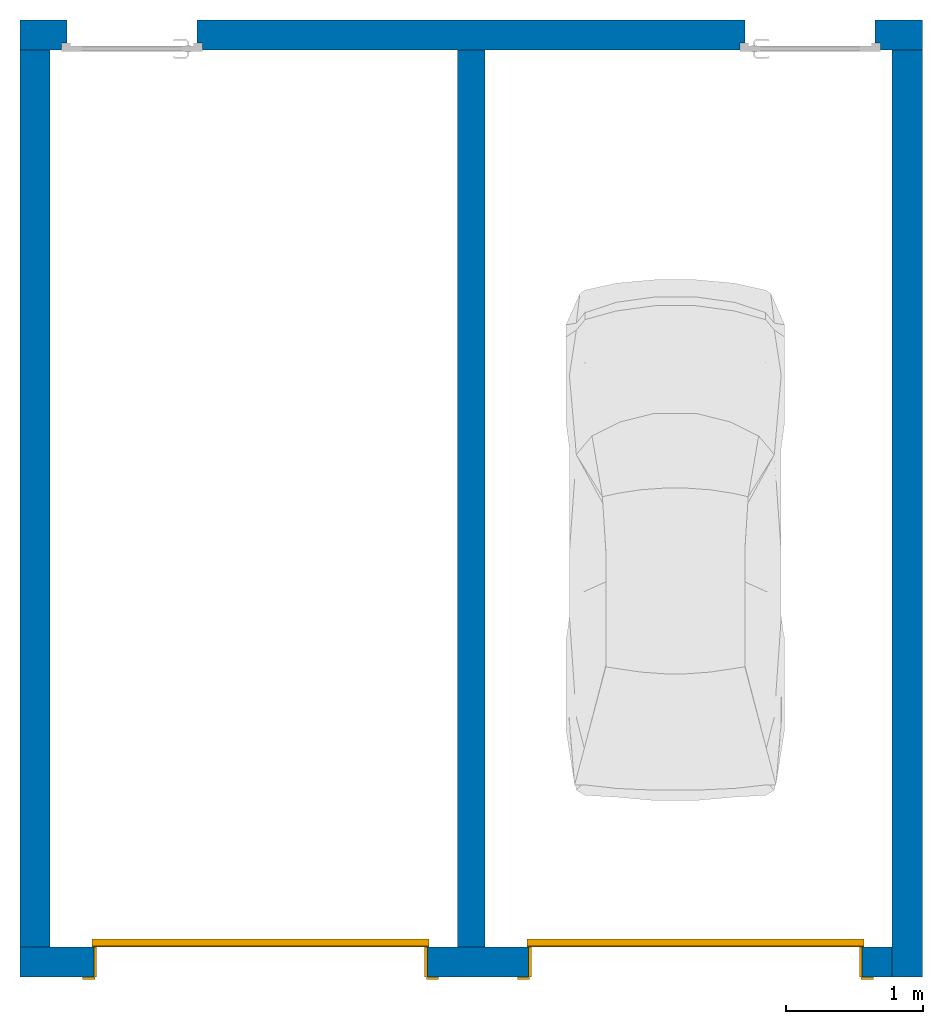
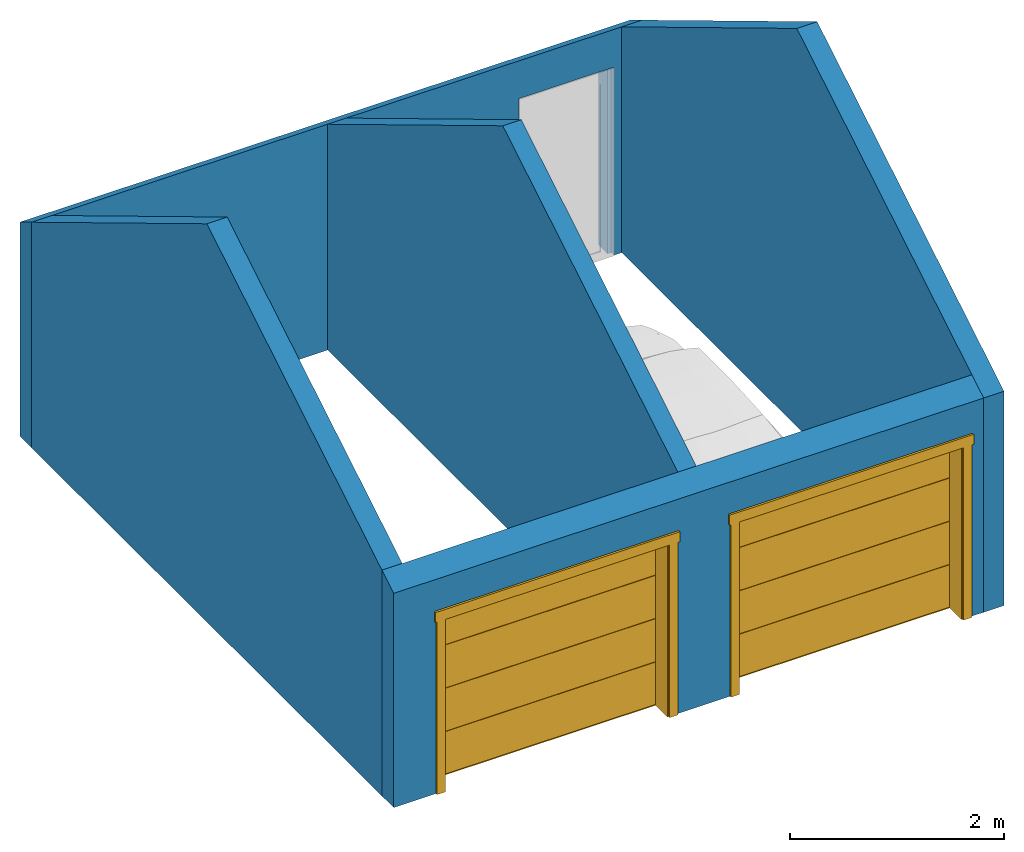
# One storey, part 1 of 3: 5 walls, 2 doors, 4 openings.
"""IFC2X3 building model written with IfcOpenShell, lengths in metres."""

from ifc_helpers import new_model, entity, si_unit, converted_unit, derived_unit, direction, frame, frame_2d, origin, origin_2d_with_axis, place, context, subcontext, project, spatial, polyline, rectangle, outline, extrude, clip, bounded_halfspace, faceted_brep, source, transform, mapped, material, layer, layer_set, layer_usage, type_object, type_shapes, element, fill, save


model = new_model("IFC2X3")

# Units and contexts
model_context = context("Model", 3, precision=1e-05, world=origin(), true_north=direction((6.12303176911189e-17, 1.0)))
body_context = subcontext(model_context, "Body", "Model", "MODEL_VIEW")
ifc_project = project(units=[si_unit("LENGTHUNIT", "METRE"), si_unit("AREAUNIT", "SQUARE_METRE"), si_unit("VOLUMEUNIT", "CUBIC_METRE"), converted_unit("PLANEANGLEUNIT", "DEGREE", entity("IfcRatioMeasure", 0.0174532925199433), si_unit("PLANEANGLEUNIT", "RADIAN"), dimensions=[0, 0, 0, 0, 0, 0, 0]), si_unit("MASSUNIT", "GRAM", prefix="KILO"), si_unit("TIMEUNIT", "SECOND"), si_unit("FREQUENCYUNIT", "HERTZ"), si_unit("THERMODYNAMICTEMPERATUREUNIT", "DEGREE_CELSIUS"), derived_unit("THERMALTRANSMITTANCEUNIT", [(si_unit("MASSUNIT", "GRAM", prefix="KILO"), 1), (si_unit("THERMODYNAMICTEMPERATUREUNIT", "KELVIN"), -1), (si_unit("TIMEUNIT", "SECOND"), -3)]), derived_unit("VOLUMETRICFLOWRATEUNIT", [(si_unit("LENGTHUNIT", "METRE"), 3), (si_unit("TIMEUNIT", "SECOND"), -1)]), si_unit("ELECTRICCURRENTUNIT", "AMPERE"), si_unit("ELECTRICVOLTAGEUNIT", "VOLT"), si_unit("POWERUNIT", "WATT"), si_unit("FORCEUNIT", "NEWTON", prefix="KILO"), si_unit("ILLUMINANCEUNIT", "LUX"), si_unit("LUMINOUSFLUXUNIT", "LUMEN"), si_unit("LUMINOUSINTENSITYUNIT", "CANDELA"), derived_unit("USERDEFINED", [(si_unit("MASSUNIT", "GRAM", prefix="KILO"), -1), (si_unit("LENGTHUNIT", "METRE"), -2), (si_unit("TIMEUNIT", "SECOND"), 3), (si_unit("LUMINOUSFLUXUNIT", "LUMEN"), 1)]), derived_unit("LINEARVELOCITYUNIT", [(si_unit("LENGTHUNIT", "METRE"), 1), (si_unit("TIMEUNIT", "SECOND"), -1)]), si_unit("PRESSUREUNIT", "PASCAL"), derived_unit("USERDEFINED", [(si_unit("LENGTHUNIT", "METRE"), -2), (si_unit("MASSUNIT", "GRAM", prefix="KILO"), 1), (si_unit("TIMEUNIT", "SECOND"), -2)])], contexts=[model_context])

# Site, building, storey
site_placement = place(None, origin())
site = spatial("IfcSite", under=ifc_project, at=site_placement, Name="Surface", CompositionType="ELEMENT")
building_placement = place(site_placement, origin())
building = spatial("IfcBuilding", under=site, at=building_placement, CompositionType="ELEMENT")
storey_placement = place(building_placement, origin())
storey = spatial("IfcBuildingStorey", under=building, at=storey_placement, Name="Plan du rez de chaussée", CompositionType="ELEMENT", Elevation=0.0)

# Wall, openings
ifc_material_1 = material(Name="Maçonnerie - Enduit")
ifc_layer_1 = layer(ifc_material_1, 0.02)
ifc_material_2 = material(Name="Maçonnerie - Béton")
ifc_layer_2 = layer(ifc_material_2, 0.2)
ifc_layer_set_1 = layer_set([ifc_layer_1, ifc_layer_2], Name="Mur de base:Ext.BBM + enduit 22")
ifc_layer_usage_1 = layer_usage(ifc_layer_set_1, "AXIS2", "NEGATIVE", 0.11)
wall_type_1 = type_object("IfcWallType", Name="Mur de base:Ext.BBM + enduit 22", PredefinedType="STANDARD", material=ifc_layer_set_1)
wall_1_placement = place(storey_placement, frame((-9.92801835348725, 2.5851324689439, 0.0)))
wall_1 = element("IfcWallStandardCase", 1, at=wall_1_placement, inside=storey, type_object=wall_type_1, material=ifc_layer_usage_1, Name="Mur de base:Ext.BBM + enduit 22", ObjectType="Mur de base:Ext.BBM + enduit 22", context=body_context, shape_type="Clipping", body=[
    clip(extrude(rectangle(XDim=6.60000000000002, YDim=0.22, at=frame_2d((3.30000000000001, 0.0), x_axis=(-1.0, 0.0))), origin(), (0.0, 0.0, 1.0), 2.58218933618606), bounded_halfspace(frame((0.0, -0.11, 2.58218933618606), z_axis=(0.0, 0.515038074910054, 0.857167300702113), x_axis=(-1.0, 0.0, 0.0)), False, frame((0.0, -0.11, 2.58218933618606)), polyline([(0.0, 0.0), (0.219999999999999, 0.0), (3.2, 0.0), (3.4, 0.0), (6.38000000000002, 0.0), (6.60000000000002, 0.0), (6.60000000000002, 0.22), (0.0, 0.22), (0.0, 0.0)]))),
])
opening_1_placement = place(wall_1_placement, frame((0.305000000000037, -0.410000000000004, 0.0)))
element("IfcOpeningElement", 2, at=opening_1_placement, cuts=wall_1, Name="Mur de base:Ext.BBM + enduit 22", ObjectType="Opening", context=body_context, shape_type="Brep", body=[
    faceted_brep([(0.98999999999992, 0.820000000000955, 2.11000000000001), (0.0400000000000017, 0.820000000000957, 2.11000000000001), (0.0400000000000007, 0.350000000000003, 2.11000000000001), (0.989999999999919, 0.35, 2.11000000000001), (0.0400000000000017, 0.820000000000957, 0.0), (0.98999999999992, 0.820000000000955, 0.0), (0.989999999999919, 0.35, 0.0), (1.02999999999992, 0.35, 0.0), (1.02999999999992, 0.3, 0.0), (0.989999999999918, 0.3, 0.0), (0.989999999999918, 0.0, 0.0), (0.0399999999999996, 0.0, 0.0), (0.0399999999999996, 0.300000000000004, 0.0), (0.0, 0.300000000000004, 0.0), (0.0, 0.350000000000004, 0.0), (0.0400000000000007, 0.350000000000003, 0.0), (0.989999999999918, 0.0, 2.11000000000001), (0.0399999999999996, 0.0, 2.11000000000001), (1.02999999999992, 0.3, 2.15000000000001), (0.0, 0.300000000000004, 2.15000000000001), (0.0400000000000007, 0.300000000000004, 2.11000000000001), (0.989999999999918, 0.3, 2.11000000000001), (1.02999999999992, 0.35, 2.15000000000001), (0.0, 0.350000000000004, 2.15000000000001)], [[[0, 1, 2, 3]], [[4, 5, 6, 7, 8, 9, 10, 11, 12, 13, 14, 15]], [[1, 0, 5, 4]], [[5, 0, 3, 6]], [[16, 17, 11, 10]], [[1, 4, 15, 2]], [[9, 8, 18, 19, 13, 12, 20, 21]], [[8, 7, 22, 18]], [[7, 6, 3, 2, 15, 14, 23, 22]], [[19, 18, 22, 23]], [[13, 19, 23, 14]], [[11, 17, 20, 12]], [[16, 10, 9, 21]], [[17, 16, 21, 20]]]),
])
opening_2_placement = place(wall_1_placement, frame((5.26500000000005, -0.41000000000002, 0.0)))
element("IfcOpeningElement", 3, at=opening_2_placement, cuts=wall_1, Name="Mur de base:Ext.BBM + enduit 22", ObjectType="Opening", context=body_context, shape_type="Brep", body=[
    faceted_brep([(0.989999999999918, 0.0, 2.11000000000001), (0.989999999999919, 0.3, 2.11000000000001), (0.0400000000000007, 0.300000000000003, 2.11000000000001), (0.0399999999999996, 0.0, 2.11000000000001), (0.989999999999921, 0.820000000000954, 0.0), (0.989999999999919, 0.35, 0.0), (1.02999999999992, 0.35, 0.0), (1.02999999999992, 0.3, 0.0), (0.989999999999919, 0.3, 0.0), (0.989999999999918, 0.0, 0.0), (0.0399999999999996, 0.0, 0.0), (0.0400000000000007, 0.300000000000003, 0.0), (0.0, 0.300000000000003, 0.0), (0.0, 0.350000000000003, 0.0), (0.0400000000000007, 0.350000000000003, 0.0), (0.0400000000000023, 0.820000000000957, 0.0), (0.989999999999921, 0.820000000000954, 2.11000000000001), (0.0400000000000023, 0.820000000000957, 2.11000000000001), (0.989999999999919, 0.35, 2.11000000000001), (1.02999999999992, 0.3, 2.15000000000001), (0.0, 0.300000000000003, 2.15000000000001), (0.0, 0.350000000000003, 2.15000000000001), (1.02999999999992, 0.35, 2.15000000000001), (0.0400000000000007, 0.350000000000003, 2.11000000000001)], [[[0, 1, 2, 3]], [[4, 5, 6, 7, 8, 9, 10, 11, 12, 13, 14, 15]], [[16, 4, 15, 17]], [[3, 2, 11, 10]], [[3, 10, 9, 0]], [[16, 18, 5, 4]], [[11, 2, 1, 8, 7, 19, 20, 12]], [[12, 20, 21, 13]], [[13, 21, 22, 6, 5, 18, 23, 14]], [[19, 22, 21, 20]], [[7, 6, 22, 19]], [[9, 8, 1, 0]], [[15, 14, 23, 17]], [[17, 23, 18, 16]]]),
])

# Wall
ifc_layer_usage_2 = layer_usage(ifc_layer_set_1, "AXIS2", "NEGATIVE", 0.11)
wall_2_placement = place(storey_placement, frame((-3.43801835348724, 2.47513246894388, 0.0), z_axis=(0.0, 0.0, 1.0), x_axis=(0.0, -1.0, 0.0)))
element("IfcWallStandardCase", 4, at=wall_2_placement, inside=storey, type_object=wall_type_1, material=ifc_layer_usage_2, Name="Mur de base:Ext.BBM + enduit 22", ObjectType="Mur de base:Ext.BBM + enduit 22", context=body_context, shape_type="Clipping", body=[
    clip(clip(extrude(rectangle(XDim=6.78, YDim=0.22, at=frame_2d((3.39, 1.38777878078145e-17), x_axis=(-1.0, 0.0))), origin(), (0.0, 0.0, 1.0), 4.55301216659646), bounded_halfspace(frame((0.0, -0.11, 2.58218933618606), z_axis=(-0.515038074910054, 0.0, 0.857167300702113), x_axis=(0.0, -1.0, 0.0)), False, frame((0.0, -0.11, 2.58218933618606)), polyline([(0.0, 0.0), (3.28, 0.0), (3.28, 0.219999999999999), (0.0, 0.22), (0.0, 0.0)]))), bounded_halfspace(frame((3.28, -0.11, 4.55301216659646), z_axis=(0.515038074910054, 0.0, 0.857167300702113), x_axis=(0.0, 1.0, 0.0)), False, frame((3.28, -0.11, 4.55301216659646)), polyline([(0.0, 0.0), (3.28, 0.0), (3.5, 0.0), (3.5, 0.22), (0.0, 0.22), (0.0, 0.0)]))),
])

# Wall, openings, doors
ifc_layer_usage_3 = layer_usage(ifc_layer_set_1, "AXIS2", "NEGATIVE", 0.11)
wall_3_placement = place(storey_placement, frame((-3.54801835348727, -4.19486753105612, 0.0), z_axis=(0.0, 0.0, 1.0), x_axis=(-1.0, 0.0, 0.0)))
wall_3 = element("IfcWallStandardCase", 5, at=wall_3_placement, inside=storey, type_object=wall_type_1, material=ifc_layer_usage_3, Name="Mur de base:Ext.BBM + enduit 22", ObjectType="Mur de base:Ext.BBM + enduit 22", context=body_context, shape_type="Clipping", body=[
    clip(extrude(rectangle(XDim=6.38, YDim=0.22, at=frame_2d((3.19, 0.0), x_axis=(-1.0, 0.0))), origin(), (0.0, 0.0, 1.0), 2.58218933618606), bounded_halfspace(frame((0.0, -0.11, 2.58218933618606), z_axis=(0.0, 0.515038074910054, 0.857167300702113), x_axis=(-1.0, 0.0, 0.0)), False, frame((0.0, -0.11, 2.58218933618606)), polyline([(0.0, 0.0), (2.98, 0.0), (3.18, 0.0), (6.16, 0.0), (6.38, 0.0), (6.38, 0.22), (0.0, 0.22), (0.0, 0.0)]))),
])
opening_3_placement = place(wall_3_placement, frame((5.8392, 0.109999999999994, 0.0)))
opening_3 = element("IfcOpeningElement", 6, at=opening_3_placement, cuts=wall_3, Name="Overhead-Sectional-Flush:96\" x 78\":1", ObjectType="Opening", context=body_context, shape_type="SweptSolid", body=[
    extrude(rectangle(XDim=1.9812, YDim=2.4384, at=frame_2d((0.990599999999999, 1.2192), x_axis=(1.0, 0.0))), frame((0.0, 0.0, 0.0), z_axis=(0.0, -1.0, 0.0), x_axis=(0.0, 0.0, 1.0)), (0.0, 0.0, 1.0), 0.22),
])
opening_4_placement = place(wall_3_placement, frame((2.6592, 0.109999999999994, 0.0)))
opening_4 = element("IfcOpeningElement", 7, at=opening_4_placement, cuts=wall_3, Name="Overhead-Sectional-Flush:96\" x 78\":1", ObjectType="Opening", context=body_context, shape_type="SweptSolid", body=[
    extrude(rectangle(XDim=1.9812, YDim=2.4384, at=frame_2d((0.990599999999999, 1.2192), x_axis=(1.0, 0.0))), frame((0.0, 0.0, 0.0), z_axis=(0.0, -1.0, 0.0), x_axis=(0.0, 0.0, 1.0)), (0.0, 0.0, 1.0), 0.22),
])
ifc_material_3 = material(Name="Rubber - Black")
door_style = type_object("IfcDoorStyle", Name="96\" x 78\"", ConstructionType="NOTDEFINED", OperationType="NOTDEFINED", ParameterTakesPrecedence=False, Sizeable=False, material=ifc_material_3)
shared_shape = source(origin(), body_context, "Body", "SweptSolid", [
    extrude(outline(polyline([(-0.0371230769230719, -0.984127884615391), (0.0136769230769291, -0.984127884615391), (0.0136769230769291, -0.499940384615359), (-0.011723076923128, -0.495177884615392), (0.0136769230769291, -0.495177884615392), (0.0136769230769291, -0.00464038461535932), (-0.0117230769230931, 0.000122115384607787), (0.0136769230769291, 0.000122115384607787), (0.0136769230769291, 0.49065961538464), (-0.0117230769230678, 0.495422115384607), (0.0136769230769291, 0.495422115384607), (0.0136769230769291, 0.990722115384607), (-0.0371230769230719, 0.990722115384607), (-0.0371230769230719, -0.984127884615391)])), frame((-0.0126999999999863, -0.0200269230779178, 0.990477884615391), z_axis=(1.0, 0.0, 0.0), x_axis=(0.0, 1.0, 0.0)), (0.0, 0.0, 1.0), 2.46379999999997),
    extrude(rectangle(XDim=0.01905, YDim=0.0889000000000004, at=origin_2d_with_axis()), frame((-0.0381, 0.229525, 0.0), z_axis=(0.0, 0.0, 1.0), x_axis=(0.0, -1.0, 0.0)), (0.0, 0.0, 1.0), 1.97485),
    extrude(rectangle(XDim=0.01905, YDim=0.0889000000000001, at=frame_2d((0.0, 1.35308431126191e-16), x_axis=(1.0, 0.0))), frame((2.4765, 0.229525, 0.0), z_axis=(0.0, 0.0, 1.0), x_axis=(0.0, -1.0, 0.0)), (0.0, 0.0, 1.0), 1.97485),
    extrude(outline(polyline([(-0.985837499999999, -1.20015), (-0.985837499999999, -1.2192), (0.995362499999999, -1.2192), (0.995362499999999, 1.2192), (-0.985837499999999, 1.2192), (-0.985837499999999, 1.20015), (0.976312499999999, 1.20015), (0.976312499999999, -1.20015), (-0.985837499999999, -1.20015)])), frame((1.2192, 0.0, 0.985837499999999), z_axis=(0.0, -1.0, 0.0), x_axis=(0.0, 0.0, 1.0)), (0.0, 0.0, -1.0), 0.22),
    extrude(outline(polyline([(-0.00317500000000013, -0.0269875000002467), (0.00317500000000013, -0.0269875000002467), (0.00317500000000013, 0.0301625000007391), (-0.00317500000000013, 0.0238124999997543), (-0.00317500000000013, -0.0269875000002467)])), frame((-0.0126999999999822, -0.030162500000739, 0.00317500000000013), z_axis=(1.0, 0.0, 0.0), x_axis=(0.0, 0.0, -1.0)), (0.0, 0.0, 1.0), 2.46379999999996),
    extrude(rectangle(XDim=0.0222249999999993, YDim=2.64159999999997, at=origin_2d_with_axis()), frame((1.2192, 0.2311125, 1.97485), z_axis=(0.0, 0.0, 1.0), x_axis=(0.0, -1.0, 0.0)), (0.0, 0.0, 1.0), 0.1143),
])
type_shapes(door_style, [shared_shape])
door_1_placement = place(opening_3_placement, frame((-2.4384, -0.220000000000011, 0.0)))
door_1 = element("IfcDoor", 8, at=door_1_placement, inside=storey, type_object=door_style, material=ifc_material_3, Name="Overhead-Sectional-Flush:96\" x 78\"", ObjectType="96\" x 78\"", OverallHeight=1.9812, OverallWidth=2.4384, context=body_context, shape_type="MappedRepresentation", body=[
    mapped(shared_shape, transform((0.0, 0.0, 0.0), scale=1.0)),
])
fill(opening_3, door_1)
door_2_placement = place(opening_4_placement, frame((-2.4384, -0.219999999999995, 0.0)))
door_2 = element("IfcDoor", 9, at=door_2_placement, inside=storey, type_object=door_style, material=ifc_material_3, Name="Overhead-Sectional-Flush:96\" x 78\"", ObjectType="96\" x 78\"", OverallHeight=1.9812, OverallWidth=2.4384, context=body_context, shape_type="MappedRepresentation", body=[
    mapped(shared_shape, transform((0.0, 0.0, 0.0), scale=1.0)),
])
fill(opening_4, door_2)

# Walls
ifc_layer_usage_4 = layer_usage(ifc_layer_set_1, "AXIS2", "NEGATIVE", 0.11)
wall_4_placement = place(storey_placement, frame((-9.81801835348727, -4.08486753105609, 0.0), z_axis=(0.0, 0.0, 1.0), x_axis=(0.0, 1.0, 0.0)))
element("IfcWallStandardCase", 10, at=wall_4_placement, inside=storey, type_object=wall_type_1, material=ifc_layer_usage_4, Name="Mur de base:Ext.BBM + enduit 22", ObjectType="Mur de base:Ext.BBM + enduit 22", context=body_context, shape_type="Clipping", body=[
    clip(clip(extrude(rectangle(XDim=6.55999999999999, YDim=0.22, at=frame_2d((3.27999999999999, -5.41233724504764e-16), x_axis=(-1.0, 0.0))), origin(), (0.0, 0.0, 1.0), 4.55301216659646), bounded_halfspace(frame((3.27999999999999, -0.109999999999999, 4.55301216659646), z_axis=(0.515038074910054, 0.0, 0.857167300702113), x_axis=(0.0, 1.0, 0.0)), False, frame((3.27999999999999, -0.109999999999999, 4.55301216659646)), polyline([(0.0, 0.0), (3.27999999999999, 0.0), (3.27999999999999, 0.219999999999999), (0.0, 0.22), (0.0, 0.0)]))), bounded_halfspace(frame((0.0, -0.109999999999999, 2.58218933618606), z_axis=(-0.515038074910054, 0.0, 0.857167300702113), x_axis=(0.0, -1.0, 0.0)), False, frame((0.0, -0.109999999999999, 2.58218933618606)), polyline([(0.0, 0.0), (3.27999999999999, 0.0), (3.27999999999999, 0.22), (0.0, 0.220000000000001), (0.0, 0.0)]))),
])
ifc_material_4 = material(Name="Mur par défaut")
ifc_layer_3 = layer(ifc_material_4, 0.2)
ifc_layer_set_2 = layer_set([ifc_layer_3], Name="Mur de base:Ext.BBM 20 cm")
ifc_layer_usage_5 = layer_usage(ifc_layer_set_2, "AXIS2", "NEGATIVE", 0.1)
wall_type_2 = type_object("IfcWallType", Name="Mur de base:Ext.BBM 20 cm", PredefinedType="STANDARD", material=ifc_layer_set_2)
wall_5_placement = place(storey_placement, frame((-6.62801835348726, -4.0848675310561, 0.0), z_axis=(0.0, 0.0, 1.0), x_axis=(0.0, 1.0, 0.0)))
element("IfcWallStandardCase", 11, at=wall_5_placement, inside=storey, type_object=wall_type_2, material=ifc_layer_usage_5, Name="Mur de base:Ext.BBM 20 cm", ObjectType="Mur de base:Ext.BBM 20 cm", context=body_context, shape_type="Clipping", body=[
    clip(clip(extrude(rectangle(XDim=6.56, YDim=0.2, at=frame_2d((3.28, 0.0), x_axis=(-1.0, 0.0))), origin(), (0.0, 0.0, 1.0), 4.55301216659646), bounded_halfspace(frame((3.28, -0.1, 4.55301216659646), z_axis=(0.515038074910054, 0.0, 0.857167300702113), x_axis=(0.0, 1.0, 0.0)), False, frame((3.28, -0.1, 4.55301216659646)), polyline([(0.0, 0.0), (3.28, 0.0), (3.28, 0.2), (0.0, 0.2), (0.0, 0.0)]))), bounded_halfspace(frame((0.0, -0.1, 2.58218933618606), z_axis=(-0.515038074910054, 0.0, 0.857167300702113), x_axis=(0.0, -1.0, 0.0)), False, frame((0.0, -0.1, 2.58218933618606)), polyline([(0.0, 0.0), (3.28, 0.0), (3.28, 0.2), (0.0, 0.2), (0.0, 0.0)]))),
])

save(model, "model.ifc")
